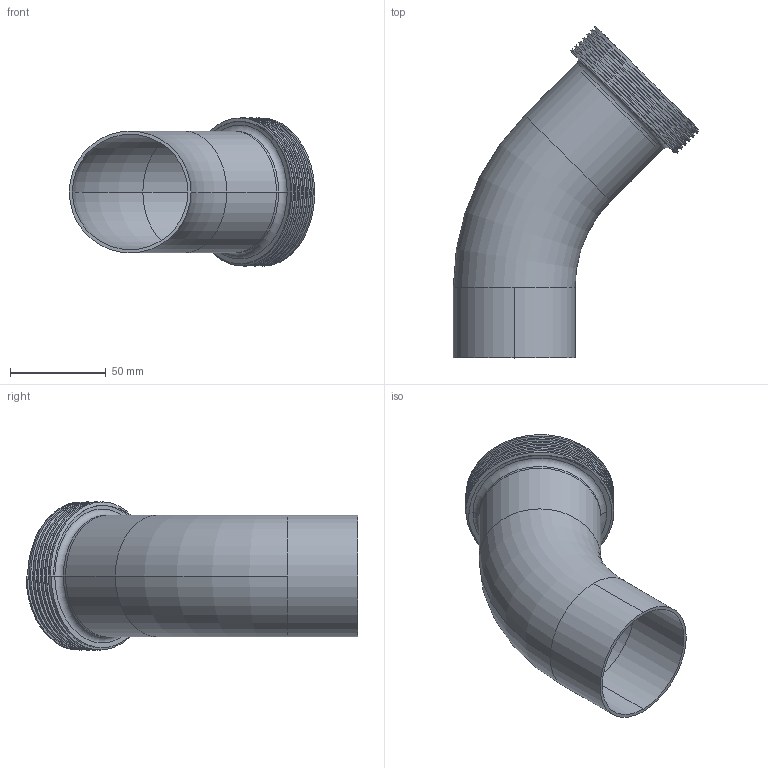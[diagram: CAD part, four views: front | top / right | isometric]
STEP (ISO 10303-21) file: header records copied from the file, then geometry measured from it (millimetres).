
FILE_DESCRIPTION (( 'STEP AP203' ), '1' );
FILE_NAME ('E2KT2.5.STEP', '2018-05-02T16:00:42', ( 'vneprd' ), ( 'Microsoft' ), 'SwSTEP 2.0', 'SolidWorks 2014', '' );
FILE_SCHEMA (( 'CONFIG_CONTROL_DESIGN' ));
Length unit declared in the file: inch
Products named in the file (3): E2KT2.5; 15TR2.5; E2KS2.5
Assembly tree (2 placements, depth 2):
  E2KT2.5
    E2KS2.5
    15TR2.5
Bounding box: 128.02 x 173.12 x 77.29 mm (x, y, z)
Volume: 77456.6 mm3; surface area: 72646.3 mm2
Topology: 2 solids, 2 shells, 45 faces, 112 edges, 72 vertices
Faces by surface type: cylinder 26, plane 7, torus 6, bspline 4, cone 2
Entity records: 3138 total; most frequent: CARTESIAN_POINT 1816, ORIENTED_EDGE 224, DIRECTION 215, EDGE_CURVE 112, AXIS2_PLACEMENT_3D 89, VERTEX_POINT 72, EDGE_LOOP 50, ADVANCED_FACE 45
